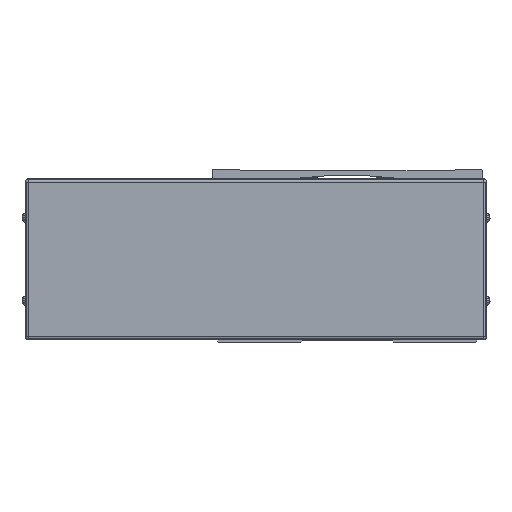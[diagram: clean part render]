
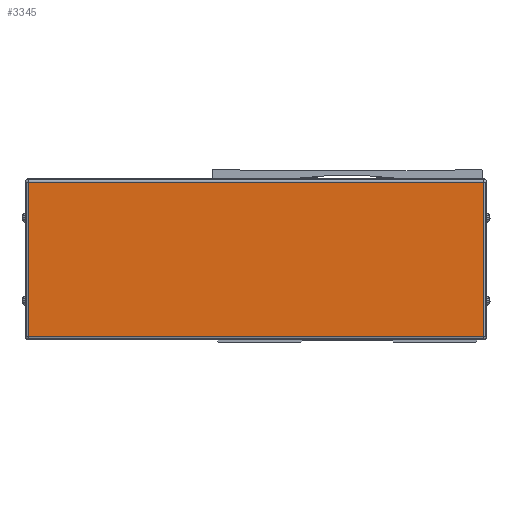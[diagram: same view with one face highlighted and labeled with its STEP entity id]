
A CAD part, front view. The second image highlights one B-rep face of the part: STEP entity #3345.
In plain terms, the highlighted planar face has unit normal (0, -1, 0).
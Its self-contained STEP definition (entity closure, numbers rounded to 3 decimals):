
#3345=ADVANCED_FACE('',(#8177),#8178,.F.);
#8177=FACE_OUTER_BOUND('',#15511,.T.);
#8178=PLANE('',#15512);
#15511=EDGE_LOOP('',(#26591,#26592,#26593,#26594));
#15512=AXIS2_PLACEMENT_3D('',#26595,#26596,#26597);
#26591=ORIENTED_EDGE('',*,*,#43929,.T.);
#26592=ORIENTED_EDGE('',*,*,#43930,.T.);
#26593=ORIENTED_EDGE('',*,*,#43931,.T.);
#26594=ORIENTED_EDGE('',*,*,#43932,.T.);
#26595=CARTESIAN_POINT('',(-655.,-122.778,-2.));
#26596=DIRECTION('',(0.,1.0,0.));
#26597=DIRECTION('',(-1.0,0.,0.));
#43929=EDGE_CURVE('',#53508,#53509,#53510,.T.);
#43930=EDGE_CURVE('',#53509,#53511,#53512,.T.);
#43931=EDGE_CURVE('',#53511,#53513,#53514,.T.);
#43932=EDGE_CURVE('',#53513,#53508,#53515,.T.);
#53508=VERTEX_POINT('',#66961);
#53509=VERTEX_POINT('',#66962);
#53510=LINE('',#66963,#66964);
#53511=VERTEX_POINT('',#66965);
#53512=LINE('',#66966,#66967);
#53513=VERTEX_POINT('',#66968);
#53514=LINE('',#66969,#66970);
#53515=LINE('',#66971,#66972);
#66961=CARTESIAN_POINT('',(-517.9,-122.778,44.5));
#66962=CARTESIAN_POINT('',(-792.1,-122.778,44.5));
#66963=CARTESIAN_POINT('',(-655.,-122.778,44.5));
#66964=VECTOR('',#80157,10.0);
#66965=CARTESIAN_POINT('',(-792.1,-122.778,-48.5));
#66966=CARTESIAN_POINT('',(-792.1,-122.778,-2.));
#66967=VECTOR('',#80158,10.0);
#66968=CARTESIAN_POINT('',(-517.9,-122.778,-48.5));
#66969=CARTESIAN_POINT('',(-655.,-122.778,-48.5));
#66970=VECTOR('',#80159,10.0);
#66971=CARTESIAN_POINT('',(-517.9,-122.778,-2.));
#66972=VECTOR('',#80160,10.0);
#80157=DIRECTION('',(-1.0,0.,0.));
#80158=DIRECTION('',(0.,0.,-1.0));
#80159=DIRECTION('',(1.0,0.,0.));
#80160=DIRECTION('',(0.,0.,1.0));
